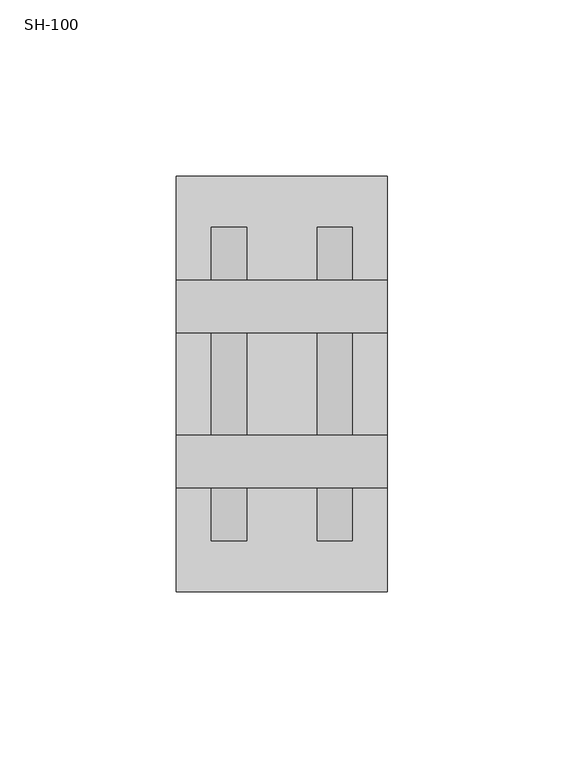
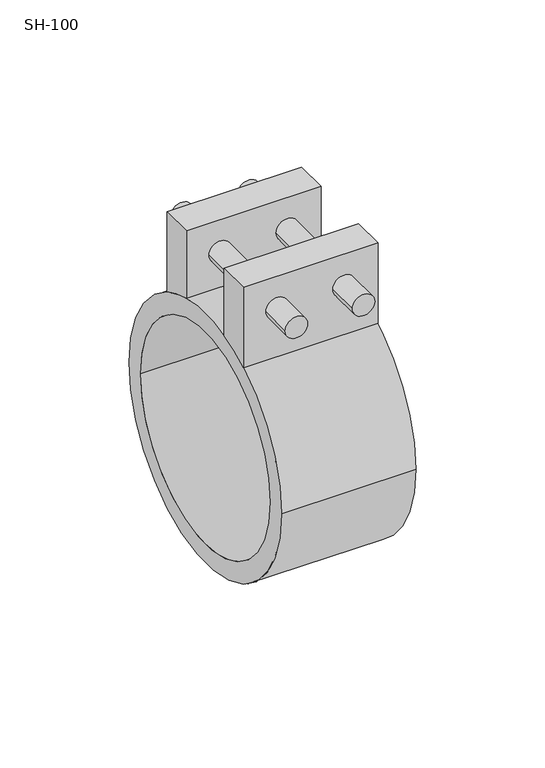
"""IFC4 building model written with IfcOpenShell, lengths in millimetres: duct fitting geometry, СВ_Хомут_Круглый_DN100-315_SH : SH-100."""

from ifc_helpers import new_model, si_unit, point, frame, origin, origin_2d, place, context, project, spatial, polyline, circle_curve, trimmed, segment, composite_curve, outline, extrude, source, transform, mapped, element, save
from ifc_brep_helpers import plane_surface, cylinder_surface, revolved_surface, advanced_brep


def sh_100_c73d791e(model_context):
    return source(origin(), model_context, "Body", "SolidModel", [
        advanced_brep(
        [(30.0, 29.5, 89.0), (30.0, 14.5, 89.0), (30.0, 14.5, 57.1904712), (30.0, 29.5, 51.0954988), (30.0, -14.5, 89.0), (30.0, -29.5, 89.0), (30.0, -29.5, 51.0954988), (30.0, -14.5, 57.1904712), (-30.0, 14.5, 89.0), (-30.0, 29.5, 89.0), (-30.0, 29.5, 51.0954988), (-30.0, 14.5, 57.1904712), (-30.0, -29.5, 89.0), (-30.0, -14.5, 89.0), (-30.0, -14.5, 57.1904712), (-30.0, -29.5, 51.0954988), (-20.0, 29.5, 74.0), (-10.0, 29.5, 74.0), (10.0, 29.5, 74.0), (20.0, 29.5, 74.0), (-10.0, 14.5, 74.0), (-20.0, 14.5, 74.0), (20.0, 14.5, 74.0), (10.0, 14.5, 74.0), (-20.0, -14.5, 74.0), (-10.0, -14.5, 74.0), (10.0, -14.5, 74.0), (20.0, -14.5, 74.0), (-10.0, -29.5, 74.0), (-20.0, -29.5, 74.0), (20.0, -29.5, 74.0), (10.0, -29.5, 74.0), (-20.0, -44.5, 74.0), (-10.0, -44.5, 74.0), (10.0, -44.5, 74.0), (20.0, -44.5, 74.0), (-20.0, 44.5, 74.0), (-10.0, 44.5, 74.0), (10.0, 44.5, 74.0), (20.0, 44.5, 74.0)],
        [
            (0, 1),
            (1, 2),
            (2, 3, circle_curve(frame((30.0, 0.0, 0.0), z_axis=(-1.0, 0.0, 0.0), x_axis=(0.0, 1.0, 0.0)), 59.0)),
            (3, 0),
            (4, 5),
            (5, 6),
            (6, 7, circle_curve(frame((30.0, 0.0, 0.0), z_axis=(-1.0, 0.0, 0.0), x_axis=(0.0, 1.0, 0.0)), 59.0)),
            (7, 4),
            (8, 9),
            (9, 10),
            (10, 11, circle_curve(frame((-30.0, 0.0, 0.0), z_axis=(1.0, 0.0, 0.0), x_axis=(0.0, 1.0, 0.0)), 59.0)),
            (11, 8),
            (12, 13),
            (13, 14),
            (14, 15, circle_curve(frame((-30.0, 0.0, 0.0), z_axis=(1.0, 0.0, 0.0), x_axis=(0.0, 1.0, 0.0)), 59.0)),
            (15, 12),
            (9, 0),
            (3, 10),
            (16, 17, circle_curve(frame((-15.0, 29.5, 74.0), z_axis=(0.0, -1.0, 0.0), x_axis=(1.0, 0.0, 0.0)), 5.0)),
            (17, 16, circle_curve(frame((-15.0, 29.5, 74.0), z_axis=(0.0, -1.0, 0.0), x_axis=(1.0, 0.0, 0.0)), 5.0)),
            (18, 19, circle_curve(frame((15.0, 29.5, 74.0), z_axis=(0.0, -1.0, 0.0), x_axis=(1.0, 0.0, 0.0)), 5.0)),
            (19, 18, circle_curve(frame((15.0, 29.5, 74.0), z_axis=(0.0, -1.0, 0.0), x_axis=(1.0, 0.0, 0.0)), 5.0)),
            (8, 1),
            (11, 2),
            (20, 21, circle_curve(frame((-15.0, 14.5, 74.0), z_axis=(0.0, 1.0, 0.0), x_axis=(1.0, 0.0, 0.0)), 5.0)),
            (21, 20, circle_curve(frame((-15.0, 14.5, 74.0), z_axis=(0.0, 1.0, 0.0), x_axis=(1.0, 0.0, 0.0)), 5.0)),
            (22, 23, circle_curve(frame((15.0, 14.5, 74.0), z_axis=(0.0, 1.0, 0.0), x_axis=(1.0, 0.0, 0.0)), 5.0)),
            (23, 22, circle_curve(frame((15.0, 14.5, 74.0), z_axis=(0.0, 1.0, 0.0), x_axis=(1.0, 0.0, 0.0)), 5.0)),
            (13, 4),
            (7, 14),
            (24, 25, circle_curve(frame((-15.0, -14.5, 74.0), z_axis=(0.0, -1.0, 0.0), x_axis=(1.0, 0.0, 0.0)), 5.0)),
            (25, 24, circle_curve(frame((-15.0, -14.5, 74.0), z_axis=(0.0, -1.0, 0.0), x_axis=(1.0, 0.0, 0.0)), 5.0)),
            (26, 27, circle_curve(frame((15.0, -14.5, 74.0), z_axis=(0.0, -1.0, 0.0), x_axis=(1.0, 0.0, 0.0)), 5.0)),
            (27, 26, circle_curve(frame((15.0, -14.5, 74.0), z_axis=(0.0, -1.0, 0.0), x_axis=(1.0, 0.0, 0.0)), 5.0)),
            (12, 5),
            (15, 6),
            (28, 29, circle_curve(frame((-15.0, -29.5, 74.0), z_axis=(0.0, 1.0, 0.0), x_axis=(1.0, 0.0, 0.0)), 5.0)),
            (29, 28, circle_curve(frame((-15.0, -29.5, 74.0), z_axis=(0.0, 1.0, 0.0), x_axis=(1.0, 0.0, 0.0)), 5.0)),
            (30, 31, circle_curve(frame((15.0, -29.5, 74.0), z_axis=(0.0, 1.0, 0.0), x_axis=(1.0, 0.0, 0.0)), 5.0)),
            (31, 30, circle_curve(frame((15.0, -29.5, 74.0), z_axis=(0.0, 1.0, 0.0), x_axis=(1.0, 0.0, 0.0)), 5.0)),
            (32, 33, circle_curve(frame((-15.0, -44.5, 74.0), z_axis=(0.0, -1.0, 0.0), x_axis=(1.0, 0.0, 0.0)), 5.0)),
            (33, 32, circle_curve(frame((-15.0, -44.5, 74.0), z_axis=(0.0, -1.0, 0.0), x_axis=(1.0, 0.0, 0.0)), 5.0)),
            (34, 35, circle_curve(frame((15.0, -44.5, 74.0), z_axis=(0.0, -1.0, 0.0), x_axis=(1.0, 0.0, 0.0)), 5.0)),
            (35, 34, circle_curve(frame((15.0, -44.5, 74.0), z_axis=(0.0, -1.0, 0.0), x_axis=(1.0, 0.0, 0.0)), 5.0)),
            (36, 37, circle_curve(frame((-15.0, 44.5, 74.0), z_axis=(0.0, 1.0, 0.0), x_axis=(1.0, 0.0, 0.0)), 5.0)),
            (37, 36, circle_curve(frame((-15.0, 44.5, 74.0), z_axis=(0.0, 1.0, 0.0), x_axis=(1.0, 0.0, 0.0)), 5.0)),
            (38, 39, circle_curve(frame((15.0, 44.5, 74.0), z_axis=(0.0, 1.0, 0.0), x_axis=(1.0, 0.0, 0.0)), 5.0)),
            (39, 38, circle_curve(frame((15.0, 44.5, 74.0), z_axis=(0.0, 1.0, 0.0), x_axis=(1.0, 0.0, 0.0)), 5.0)),
            (32, 29),
            (28, 33),
            (37, 17),
            (16, 36),
            (24, 21),
            (20, 25),
            (34, 31),
            (30, 35),
            (39, 19),
            (18, 38),
            (26, 23),
            (22, 27),
        ],
        [
            plane_surface(frame((30.0, 29.5, 89.0), z_axis=(1.0, 0.0, 0.0), x_axis=(0.0, 0.0, 1.0))),
            plane_surface(frame((-30.0, 29.5, 89.0), z_axis=(-1.0, 0.0, 0.0), x_axis=(0.0, 0.0, -1.0))),
            plane_surface(frame((30.0, 29.5, 0.0), z_axis=(0.0, 1.0, 0.0), x_axis=(-1.0, 0.0, 0.0))),
            plane_surface(frame((30.0, 29.5, 89.0), z_axis=(0.0, 0.0, 1.0), x_axis=(-1.0, 0.0, 0.0))),
            plane_surface(frame((30.0, 14.5, 89.0), z_axis=(0.0, -1.0, 0.0), x_axis=(-1.0, 0.0, 0.0))),
            plane_surface(frame((30.0, -14.5, 0.0), z_axis=(0.0, 1.0, 0.0), x_axis=(-1.0, 0.0, 0.0))),
            plane_surface(frame((30.0, -14.5, 89.0), z_axis=(0.0, 0.0, 1.0), x_axis=(-1.0, 0.0, 0.0))),
            plane_surface(frame((30.0, -29.5, 89.0), z_axis=(0.0, -1.0, 0.0), x_axis=(-1.0, 0.0, 0.0))),
            revolved_surface(polyline([(30.0, 59.0, 0.0), (-30.0, 59.0, 0.0)]), (-30.0, 0.0, 0.0), (1.0, 0.0, 0.0)),
            plane_surface(frame((-10.0, -44.5, 74.0), z_axis=(0.0, -1.0, 0.0), x_axis=(0.0, 0.0, 1.0))),
            plane_surface(frame((-10.0, 44.5, 74.0), z_axis=(0.0, 1.0, 0.0), x_axis=(0.0, 0.0, -1.0))),
            cylinder_surface(frame((-15.0, 44.5, 74.0), z_axis=(0.0, -1.0, 0.0), x_axis=(1.0, 0.0, 0.0)), 5.0),
            cylinder_surface(frame((15.0, 0.0, 74.0), z_axis=(0.0, -1.0, 0.0), x_axis=(1.0, 0.0, 0.0)), 5.0),
        ],
        [
            (0, [[1, 2, 3, 4]]),
            (0, [[5, 6, 7, 8]]),
            (1, [[9, 10, 11, 12]]),
            (1, [[13, 14, 15, 16]]),
            (2, [[17, -4, 18, -10], [19, 20], [21, 22]]),
            (3, [[-1, -17, -9, 23]]),
            (4, [[-23, -12, 24, -2], [25, 26], [27, 28]]),
            (5, [[29, -8, 30, -14], [31, 32], [33, 34]]),
            (6, [[-5, -29, -13, 35]]),
            (7, [[-35, -16, 36, -6], [37, 38], [39, 40]]),
            (8, [[-3, -24, -11, -18]]),
            (8, [[-7, -36, -15, -30]]),
            (9, [[41, 42]]),
            (9, [[43, 44]]),
            (10, [[45, 46]]),
            (10, [[47, 48]]),
            (11, [[-41, 49, -37, 50]]),
            (11, [[-46, 51, -19, 52]]),
            (11, [[53, -25, 54, -31]]),
            (11, [[-42, -50, -38, -49]]),
            (11, [[-45, -52, -20, -51]]),
            (11, [[-53, -32, -54, -26]]),
            (12, [[-43, 55, -39, 56]]),
            (12, [[-48, 57, -21, 58]]),
            (12, [[59, -27, 60, -33]]),
            (12, [[-44, -56, -40, -55]]),
            (12, [[-47, -58, -22, -57]]),
            (12, [[-59, -34, -60, -28]]),
        ],
    ),
        extrude(outline(composite_curve([segment(trimmed(circle_curve(origin_2d(), 59.0), [point((-59.0, 0.0))], [point((59.0, 0.0))], False, "CARTESIAN"), True, "CONTINUOUS"), segment(trimmed(circle_curve(origin_2d(), 59.0), [point((59.0, 0.0))], [point((-59.0, 0.0))], False, "CARTESIAN"), True, "CONTINUOUS")], self_intersect=False), holes=[composite_curve([segment(trimmed(circle_curve(origin_2d(), 50.0), [point((-50.0, 0.0))], [point((50.0, 0.0))], True, "CARTESIAN"), True, "CONTINUOUS"), segment(trimmed(circle_curve(origin_2d(), 50.0), [point((50.0, 0.0))], [point((-50.0, 0.0))], True, "CARTESIAN"), True, "CONTINUOUS")], self_intersect=False)]), frame((-30.0, 0.0, 0.0), z_axis=(1.0, 0.0, 0.0), x_axis=(0.0, 1.0, 0.0)), (0.0, 0.0, 1.0), 60.0),
    ])


if __name__ == "__main__":
    model = new_model("IFC4")
    model_context = context("Model", 3, world=origin())
    ifc_project = project(units=[si_unit("LENGTHUNIT", "METRE", prefix="MILLI")], contexts=[model_context])
    site = spatial("IfcSite", under=ifc_project)
    building = spatial("IfcBuilding", under=site)
    placement = place(None, origin())
    sh_100_shape = sh_100_c73d791e(model_context)
    element("IfcDuctFitting", 1, ObjectType="СВ_Хомут_Круглый_DN100-315_SH : SH-100", at=placement, inside=building, context=model_context, shape_type="MappedRepresentation", body=[
        mapped(sh_100_shape, transform((0.0, 0.0, 0.0), x_axis=(1.0, 0.0, 0.0), y_axis=(0.0, 1.0, 0.0), z_axis=(0.0, 0.0, 1.0))),
    ])
    save(model, "model.ifc")
